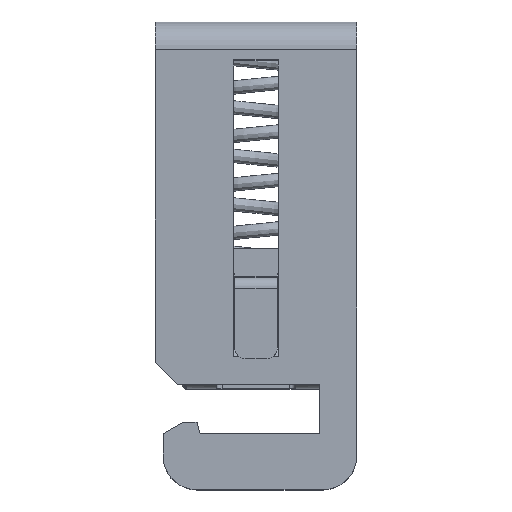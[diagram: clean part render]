
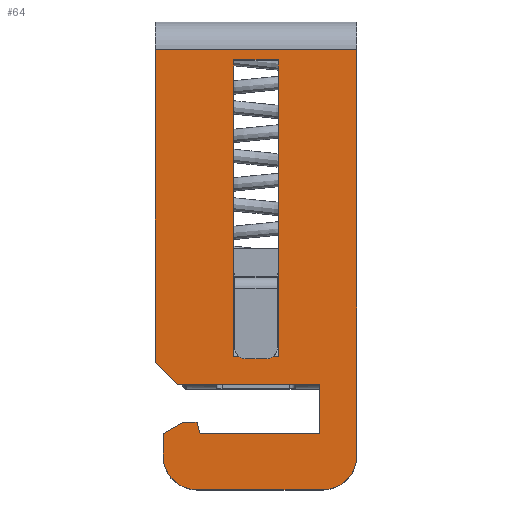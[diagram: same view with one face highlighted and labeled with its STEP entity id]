
A CAD part, top view. The second image highlights one B-rep face of the part: STEP entity #64.
In plain terms, the highlighted planar face has unit normal (0, 0, 1).
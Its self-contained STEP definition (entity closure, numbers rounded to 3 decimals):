
#64=ADVANCED_FACE('',(#467,#469),#471,.F.);
#467=FACE_BOUND('',#468,.T.);
#468=EDGE_LOOP('',(#7045,#7046,#7047,#7048,#7049,#7050,#7051,#7052,#7053,#7054,#7055,
#7056,#7057,#7058));
#469=FACE_BOUND('',#470,.T.);
#470=EDGE_LOOP('',(#7059,#7060,#7061,#7062,#7063,#7064,#7065,#7066));
#471=PLANE('',#472);
#472=AXIS2_PLACEMENT_3D('',#473,#474,#475);
#473=CARTESIAN_POINT('',(0.,99.695,20.));
#474=DIRECTION('',(0.,0.,-1.));
#475=DIRECTION('',(1.,0.,0.));
#7045=ORIENTED_EDGE('',*,*,#8963,.F.);
#7046=ORIENTED_EDGE('',*,*,#8964,.F.);
#7047=ORIENTED_EDGE('',*,*,#8965,.F.);
#7048=ORIENTED_EDGE('',*,*,#8966,.F.);
#7049=ORIENTED_EDGE('',*,*,#8967,.T.);
#7050=ORIENTED_EDGE('',*,*,#8968,.F.);
#7051=ORIENTED_EDGE('',*,*,#8969,.T.);
#7052=ORIENTED_EDGE('',*,*,#8970,.T.);
#7053=ORIENTED_EDGE('',*,*,#8971,.T.);
#7054=ORIENTED_EDGE('',*,*,#8972,.T.);
#7055=ORIENTED_EDGE('',*,*,#8973,.T.);
#7056=ORIENTED_EDGE('',*,*,#8974,.T.);
#7057=ORIENTED_EDGE('',*,*,#8975,.T.);
#7058=ORIENTED_EDGE('',*,*,#8976,.T.);
#7059=ORIENTED_EDGE('',*,*,#8977,.F.);
#7060=ORIENTED_EDGE('',*,*,#8978,.F.);
#7061=ORIENTED_EDGE('',*,*,#8979,.F.);
#7062=ORIENTED_EDGE('',*,*,#8941,.T.);
#7063=ORIENTED_EDGE('',*,*,#8980,.T.);
#7064=ORIENTED_EDGE('',*,*,#8981,.T.);
#7065=ORIENTED_EDGE('',*,*,#8982,.T.);
#7066=ORIENTED_EDGE('',*,*,#8937,.T.);
#8937=EDGE_CURVE('',#9923,#9921,#9924,.T.);
#8941=EDGE_CURVE('',#9930,#9928,#9931,.T.);
#8963=EDGE_CURVE('',#9971,#9972,#9973,.F.);
#8964=EDGE_CURVE('',#9974,#9971,#9975,.T.);
#8965=EDGE_CURVE('',#9976,#9974,#9977,.F.);
#8966=EDGE_CURVE('',#9978,#9976,#9979,.T.);
#8967=EDGE_CURVE('',#9978,#9980,#9981,.T.);
#8968=EDGE_CURVE('',#9982,#9980,#9983,.T.);
#8969=EDGE_CURVE('',#9982,#9984,#9985,.T.);
#8970=EDGE_CURVE('',#9984,#9986,#9987,.T.);
#8971=EDGE_CURVE('',#9986,#9988,#9989,.T.);
#8972=EDGE_CURVE('',#9988,#9990,#9991,.T.);
#8973=EDGE_CURVE('',#9990,#9992,#9993,.T.);
#8974=EDGE_CURVE('',#9992,#9994,#9995,.T.);
#8975=EDGE_CURVE('',#9994,#9996,#9997,.T.);
#8976=EDGE_CURVE('',#9996,#9972,#9998,.T.);
#8977=EDGE_CURVE('',#9999,#9921,#10000,.T.);
#8978=EDGE_CURVE('',#10001,#9999,#10002,.F.);
#8979=EDGE_CURVE('',#9930,#10001,#10003,.T.);
#8980=EDGE_CURVE('',#9928,#10004,#10005,.T.);
#8981=EDGE_CURVE('',#10004,#10006,#10007,.T.);
#8982=EDGE_CURVE('',#10006,#9923,#10008,.T.);
#9921=VERTEX_POINT('',#11552);
#9923=VERTEX_POINT('',#11557);
#9924=LINE('',#11558,#11559);
#9928=VERTEX_POINT('',#11568);
#9930=VERTEX_POINT('',#11572);
#9931=LINE('',#11573,#11574);
#9971=VERTEX_POINT('',#11662);
#9972=VERTEX_POINT('',#11663);
#9973=CIRCLE('',#11664,3.);
#9974=VERTEX_POINT('',#11668);
#9975=LINE('',#11669,#11670);
#9976=VERTEX_POINT('',#11672);
#9977=CIRCLE('',#11673,3.);
#9978=VERTEX_POINT('',#11677);
#9979=LINE('',#11678,#11679);
#9980=VERTEX_POINT('',#11681);
#9981=LINE('',#11682,#11683);
#9982=VERTEX_POINT('',#11685);
#9983=LINE('',#11686,#11687);
#9984=VERTEX_POINT('',#11689);
#9985=LINE('',#11690,#11691);
#9986=VERTEX_POINT('',#11693);
#9987=LINE('',#11694,#11695);
#9988=VERTEX_POINT('',#11697);
#9989=LINE('',#11698,#11699);
#9990=VERTEX_POINT('',#11701);
#9991=LINE('',#11702,#11703);
#9992=VERTEX_POINT('',#11705);
#9993=LINE('',#11706,#11707);
#9994=VERTEX_POINT('',#11709);
#9995=LINE('',#11710,#11711);
#9996=VERTEX_POINT('',#11713);
#9997=LINE('',#11714,#11715);
#9998=LINE('',#11717,#11718);
#9999=VERTEX_POINT('',#11720);
#10000=CIRCLE('',#11721,1.);
#10001=VERTEX_POINT('',#11725);
#10002=LINE('',#11726,#11727);
#10003=CIRCLE('',#11729,1.);
#10004=VERTEX_POINT('',#11733);
#10005=LINE('',#11734,#11735);
#10006=VERTEX_POINT('',#11737);
#10007=LINE('',#11738,#11739);
#10008=LINE('',#11741,#11742);
#11552=CARTESIAN_POINT('',(10.526,11.9,20.));
#11557=CARTESIAN_POINT('',(11.,11.9,20.));
#11558=CARTESIAN_POINT('',(11.,11.9,20.));
#11559=VECTOR('',#11560,1.);
#11560=DIRECTION('',(-1.,0.,0.));
#11568=CARTESIAN_POINT('',(7.,11.9,20.));
#11572=CARTESIAN_POINT('',(7.474,11.9,20.));
#11573=CARTESIAN_POINT('',(7.474,11.9,20.));
#11574=VECTOR('',#11575,1.);
#11575=DIRECTION('',(-1.,0.,0.));
#11662=CARTESIAN_POINT('',(3.7,0.,20.));
#11663=CARTESIAN_POINT('',(0.7,3.,20.));
#11664=AXIS2_PLACEMENT_3D('',#11665,#11666,#11667);
#11665=CARTESIAN_POINT('',(3.7,3.,20.));
#11666=DIRECTION('',(0.,0.,1.));
#11667=DIRECTION('',(-1.,0.,0.));
#11668=CARTESIAN_POINT('',(15.,0.,20.));
#11669=CARTESIAN_POINT('',(15.,0.,20.));
#11670=VECTOR('',#11671,1.);
#11671=DIRECTION('',(-1.,0.,0.));
#11672=CARTESIAN_POINT('',(18.,3.,20.));
#11673=AXIS2_PLACEMENT_3D('',#11674,#11675,#11676);
#11674=CARTESIAN_POINT('',(15.,3.,20.));
#11675=DIRECTION('',(0.,0.,1.));
#11676=DIRECTION('',(0.,-1.,0.));
#11677=CARTESIAN_POINT('',(18.,39.3,20.));
#11678=CARTESIAN_POINT('',(18.,39.3,20.));
#11679=VECTOR('',#11680,1.);
#11680=DIRECTION('',(0.,-1.,0.));
#11681=CARTESIAN_POINT('',(0.,39.3,20.));
#11682=CARTESIAN_POINT('',(18.,39.3,20.));
#11683=VECTOR('',#11684,1.);
#11684=DIRECTION('',(-1.,0.,0.));
#11685=CARTESIAN_POINT('',(0.,11.4,20.));
#11686=CARTESIAN_POINT('',(0.,11.4,20.));
#11687=VECTOR('',#11688,1.);
#11688=DIRECTION('',(0.,1.,0.));
#11689=CARTESIAN_POINT('',(2.,9.4,20.));
#11690=CARTESIAN_POINT('',(0.,11.4,20.));
#11691=VECTOR('',#11692,1.);
#11692=DIRECTION('',(0.707,-0.707,0.));
#11693=CARTESIAN_POINT('',(14.7,9.4,20.));
#11694=CARTESIAN_POINT('',(2.,9.4,20.));
#11695=VECTOR('',#11696,1.);
#11696=DIRECTION('',(1.,0.,0.));
#11697=CARTESIAN_POINT('',(14.7,5.,20.));
#11698=CARTESIAN_POINT('',(14.7,9.4,20.));
#11699=VECTOR('',#11700,1.);
#11700=DIRECTION('',(0.,-1.,0.));
#11701=CARTESIAN_POINT('',(4.,5.,20.));
#11702=CARTESIAN_POINT('',(14.7,5.,20.));
#11703=VECTOR('',#11704,1.);
#11704=DIRECTION('',(-1.,0.,0.));
#11705=CARTESIAN_POINT('',(3.732,6.,20.));
#11706=CARTESIAN_POINT('',(4.,5.,20.));
#11707=VECTOR('',#11708,1.);
#11708=DIRECTION('',(-0.259,0.966,0.));
#11709=CARTESIAN_POINT('',(2.432,6.,20.));
#11710=CARTESIAN_POINT('',(3.732,6.,20.));
#11711=VECTOR('',#11712,1.);
#11712=DIRECTION('',(-1.,0.,0.));
#11713=CARTESIAN_POINT('',(0.7,5.,20.));
#11714=CARTESIAN_POINT('',(2.432,6.,20.));
#11715=VECTOR('',#11716,1.);
#11716=DIRECTION('',(-0.866,-0.5,0.));
#11717=CARTESIAN_POINT('',(0.7,5.,20.));
#11718=VECTOR('',#11719,1.);
#11719=DIRECTION('',(0.,-1.,0.));
#11720=CARTESIAN_POINT('',(9.9,11.68,20.));
#11721=AXIS2_PLACEMENT_3D('',#11722,#11723,#11724);
#11722=CARTESIAN_POINT('',(9.9,12.68,20.));
#11723=DIRECTION('',(0.,0.,1.));
#11724=DIRECTION('',(0.,-1.,0.));
#11725=CARTESIAN_POINT('',(8.1,11.68,20.));
#11726=CARTESIAN_POINT('',(9.9,11.68,20.));
#11727=VECTOR('',#11728,1.);
#11728=DIRECTION('',(-1.,0.,0.));
#11729=AXIS2_PLACEMENT_3D('',#11730,#11731,#11732);
#11730=CARTESIAN_POINT('',(8.1,12.68,20.));
#11731=DIRECTION('',(0.,0.,1.));
#11732=DIRECTION('',(-0.626,-0.78,0.));
#11733=CARTESIAN_POINT('',(7.,38.4,20.));
#11734=CARTESIAN_POINT('',(7.,11.9,20.));
#11735=VECTOR('',#11736,1.);
#11736=DIRECTION('',(0.,1.,0.));
#11737=CARTESIAN_POINT('',(11.,38.4,20.));
#11738=CARTESIAN_POINT('',(7.,38.4,20.));
#11739=VECTOR('',#11740,1.);
#11740=DIRECTION('',(1.,0.,0.));
#11741=CARTESIAN_POINT('',(11.,38.4,20.));
#11742=VECTOR('',#11743,1.);
#11743=DIRECTION('',(0.,-1.,0.));
